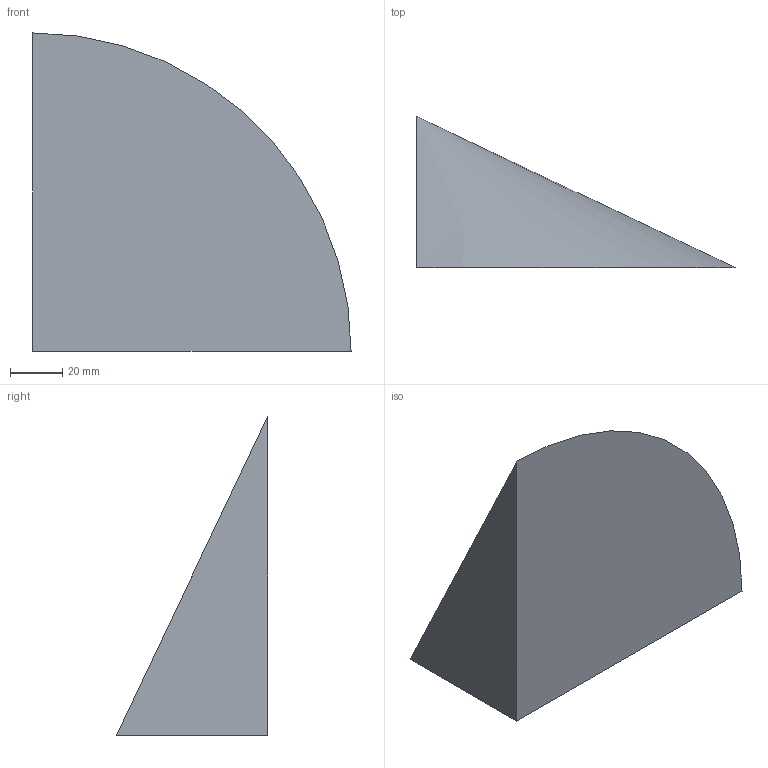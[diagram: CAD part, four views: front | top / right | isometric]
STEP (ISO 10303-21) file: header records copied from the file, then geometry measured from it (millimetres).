
FILE_DESCRIPTION(('CATIA V5 STEP Exchange'),'2;1');
FILE_NAME('C:\_Andres\UNIVERSIDAD\IQS\ASIGNATURAS\DAO\EXF\EXF-16172c\2inicio\Pascual_Sarrias_Ej07_v22.stp','2017-03-05T21:18:14+00:00',('none'),('none'),'CATIA Version 5-6 Release 2014 SP1 HF18','CATIA V5 STEP AP203','none');
FILE_SCHEMA(('CONFIG_CONTROL_DESIGN'));
Length unit declared in the file: millimetre
Products named in the file (1): Pascual_Sarrias_Ej07_v22
Bounding box: 122 x 58 x 122 mm (x, y, z)
Volume: 226004.1 mm3; surface area: 31709.5 mm2
Topology: 1 solids, 1 shells, 4 faces, 7 edges, 4 vertices
Faces by surface type: plane 3, cone 1
Entity records: 131 total; most frequent: CARTESIAN_POINT 15, DIRECTION 14, ORIENTED_EDGE 12, AXIS2_PLACEMENT_3D 6, EDGE_CURVE 6, VECTOR 5, LINE 5, ADVANCED_FACE 4
